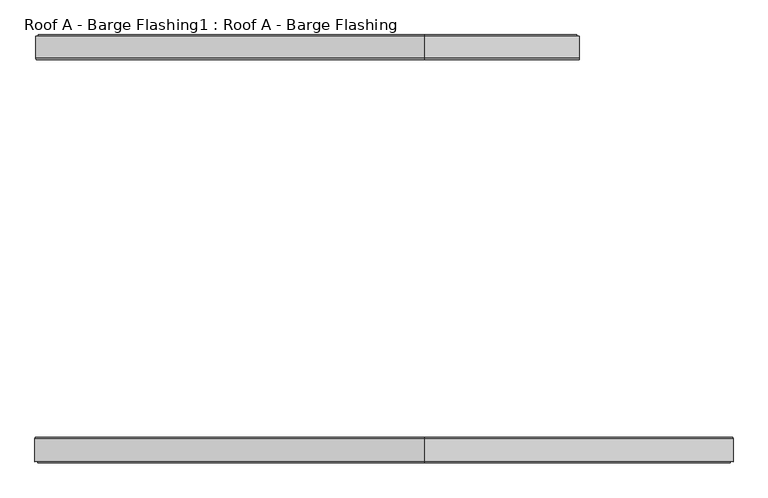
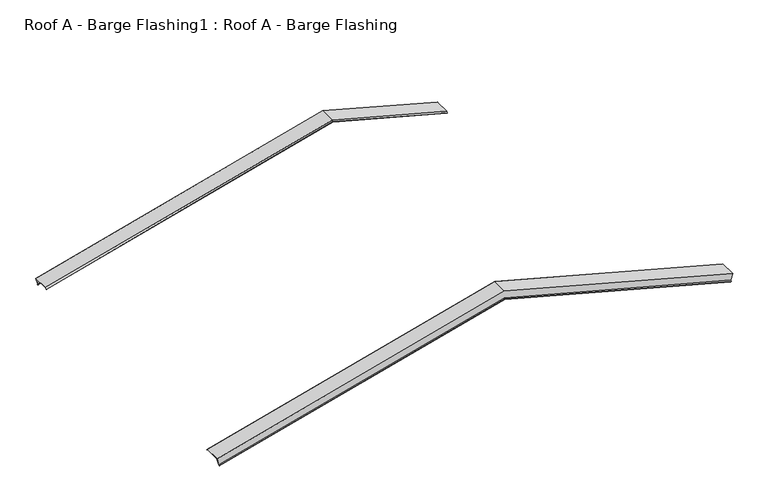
"""IFC4 building model written with IfcOpenShell, lengths in millimetres: proxy geometry, Roof A - Barge Flashing1 : Roof A - Barge Flashing."""

from ifc_helpers import new_model, si_unit, origin, place, context, project, spatial, faceted_brep, source, transform, mapped, element, save


def roof_a_barge_flashing1_roof_a_barge_flashing_c8499a7f(model_context):
    return source(origin(), model_context, "Body", "Brep", [
        faceted_brep([(-10282.2925337, -16978.7583902, 5751.4040697), (-10282.2925337, -16698.2749314, 5751.4040697), (-10312.8756826, -16698.2749314, 5637.2662041), (-10316.4287303, -16684.5470094, 5624.0060497), (-10318.9909082, -16694.4465043, 5614.4438718), (-10319.1739209, -16693.7393975, 5613.7608591), (-10316.4287303, -16683.1327958, 5624.0060497), (-10312.7684763, -16697.2749314, 5637.6663037), (-10282.0337147, -16697.2749314, 5752.3699956), (-10282.0337147, -16979.1726037, 5752.3699956), (-10287.066564, -16998.6180402, 5733.5871463), (-10287.2495767, -16997.9109334, 5732.9041336), (-12273.1375384, -16997.9109334, 6265.0212092), (-12273.1375384, -16978.7583902, 6284.849381), (-12273.1375384, -16998.6180402, 6265.75326), (-12273.1375384, -16979.1726037, 6285.8846572), (-12273.1375384, -16697.2749314, 6285.8846572), (-12273.1375384, -16697.2749314, 6162.9456108), (-17223.0470329, -16697.2749314, 4836.6213591), (-17253.7817945, -16697.2749314, 4951.325051), (-12273.1375384, -16683.1327958, 6148.3045946), (-12273.1375384, -16693.7393975, 6137.3238325), (-12273.1375384, -16694.4465043, 6138.0558833), (-12273.1375384, -16684.5470094, 6148.3045946), (-12273.1375384, -16698.2749314, 6162.5167853), (-12273.1375384, -16698.2749314, 6284.849381), (-17253.5229754, -16698.2749314, 4950.3591251), (-17222.9398265, -16698.2749314, 4836.2212595), (-17253.5229754, -16978.7583902, 4950.3591251), (-17248.5659325, -16997.9109334, 4931.859189), (-17248.7489452, -16998.6180402, 4932.5422017), (-17253.7817945, -16979.1726037, 4951.325051), (-17219.3867788, -16683.1327958, 4822.9611051), (-17216.6415883, -16693.7393975, 4812.7159145), (-17216.824601, -16694.4465043, 4813.3989272), (-17219.3867788, -16684.5470094, 4822.9611051)], [[[0, 1, 2, 3, 4, 5, 6, 7, 8, 9, 10, 11]], [[0, 11, 12, 13]], [[11, 10, 14, 12]], [[10, 9, 15, 14]], [[9, 8, 16, 15]], [[8, 7, 17, 18, 19, 16]], [[7, 6, 20, 17]], [[6, 5, 21, 20]], [[5, 4, 22, 21]], [[4, 3, 23, 22]], [[3, 2, 24, 23]], [[2, 1, 25, 26, 27, 24]], [[1, 0, 13, 25]], [[28, 29, 30, 31, 19, 18, 32, 33, 34, 35, 27, 26]], [[12, 14, 30, 29]], [[15, 16, 19, 31]], [[17, 20, 32, 18]], [[20, 21, 33, 32]], [[21, 22, 34, 33]], [[22, 23, 35, 34]], [[23, 24, 27, 35]], [[25, 13, 28, 26]], [[13, 12, 29, 28]], [[14, 15, 31, 30]]]),
        faceted_brep([(-8311.8038481, -21868.8247807, 5223.4132177), (-8316.7608911, -21849.6722375, 5204.9132816), (-8316.5778784, -21848.9651307, 5205.5962943), (-8311.5450291, -21868.4105672, 5224.3791436), (-8311.5450291, -22159.0582394, 5224.3791436), (-8342.2797907, -22159.0582394, 5109.6754517), (-8345.9400447, -22173.2003751, 5096.0151976), (-8348.6852352, -22162.5937734, 5085.7700071), (-8348.5022225, -22161.8866666, 5086.4530198), (-8345.9400447, -22171.7861615, 5096.0151976), (-8342.386997, -22158.0582394, 5109.2753521), (-8311.8038481, -22158.0582394, 5223.4132177), (-12273.1375384, -21868.8247807, 6284.849381), (-12273.1375384, -21849.6722375, 6265.0212092), (-12273.1375384, -21848.9651307, 6265.75326), (-12273.1375384, -21868.4105672, 6285.8846572), (-12273.1375384, -22159.0582394, 6285.8846572), (-17263.4410527, -22159.0582394, 4948.7368605), (-17232.7062911, -22159.0582394, 4834.0331687), (-12273.1375384, -22159.0582394, 6162.9456108), (-12273.1375384, -22173.2003751, 6148.3045946), (-12273.1375384, -22162.5937734, 6137.3238325), (-12273.1375384, -22161.8866666, 6138.0558833), (-12273.1375384, -22171.7861615, 6148.3045946), (-12273.1375384, -22158.0582394, 6162.5167853), (-17232.5990848, -22158.0582394, 4833.6330691), (-17263.1822337, -22158.0582394, 4947.7709347), (-12273.1375384, -22158.0582394, 6284.849381), (-17263.1822337, -21868.8247807, 4947.7709347), (-17229.0460371, -22171.7861615, 4820.3729146), (-17226.4838593, -22161.8866666, 4810.8107368), (-17226.3008466, -22162.5937734, 4810.1277241), (-17229.0460371, -22173.2003751, 4820.3729146), (-17263.4410527, -21868.4105672, 4948.7368605), (-17258.4082034, -21848.9651307, 4929.9540112), (-17258.2251907, -21849.6722375, 4929.2709985)], [[[0, 1, 2, 3, 4, 5, 6, 7, 8, 9, 10, 11]], [[1, 0, 12, 13]], [[2, 1, 13, 14]], [[3, 2, 14, 15]], [[4, 3, 15, 16]], [[5, 4, 16, 17, 18, 19]], [[6, 5, 19, 20]], [[7, 6, 20, 21]], [[8, 7, 21, 22]], [[9, 8, 22, 23]], [[10, 9, 23, 24]], [[11, 10, 24, 25, 26, 27]], [[0, 11, 27, 12]], [[28, 26, 25, 29, 30, 31, 32, 18, 17, 33, 34, 35]], [[14, 13, 35, 34]], [[16, 15, 33, 17]], [[20, 19, 18, 32]], [[21, 20, 32, 31]], [[22, 21, 31, 30]], [[23, 22, 30, 29]], [[24, 23, 29, 25]], [[12, 27, 26, 28]], [[13, 12, 28, 35]], [[15, 14, 34, 33]]]),
    ])


if __name__ == "__main__":
    model = new_model("IFC4")
    model_context = context("Model", 3, world=origin())
    ifc_project = project(units=[si_unit("LENGTHUNIT", "METRE", prefix="MILLI")], contexts=[model_context])
    site = spatial("IfcSite", under=ifc_project)
    building = spatial("IfcBuilding", under=site)
    placement = place(None, origin())
    roof_a_barge_flashing1_roof_a_barge_flashing_shape = roof_a_barge_flashing1_roof_a_barge_flashing_c8499a7f(model_context)
    element("IfcBuildingElementProxy", 1, Name="Roof A - Barge Flashing1 : Roof A - Barge Flashing", ObjectType="Roof A - Barge Flashing1 : Roof A - Barge Flashing", at=placement, inside=building, context=model_context, shape_type="MappedRepresentation", body=[
        mapped(roof_a_barge_flashing1_roof_a_barge_flashing_shape, transform((0.0, 0.0, 0.0), x_axis=(1.0, 0.0, 0.0), y_axis=(0.0, 1.0, 0.0), z_axis=(0.0, 0.0, 1.0))),
    ])
    save(model, "model.ifc")
